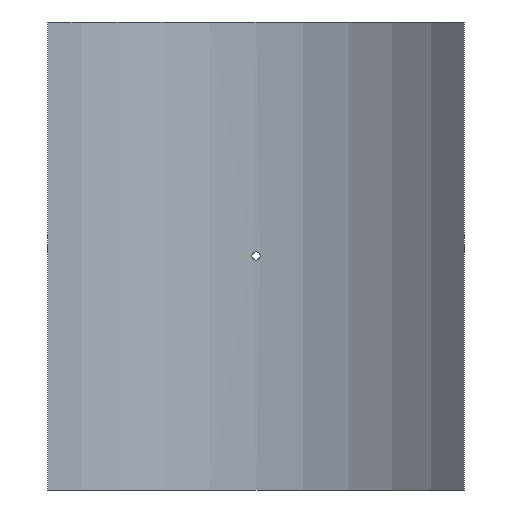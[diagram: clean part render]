
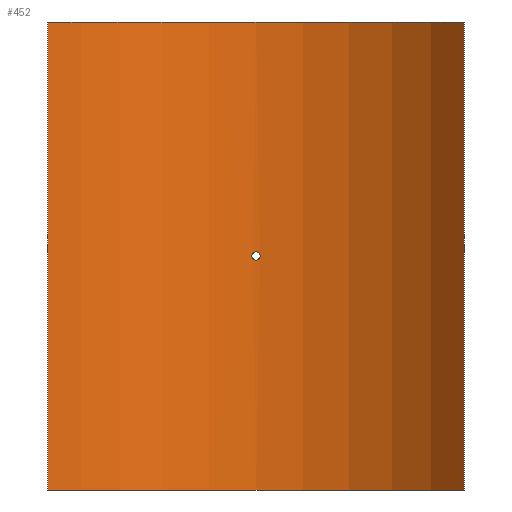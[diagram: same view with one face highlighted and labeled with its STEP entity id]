
A CAD part, front view. The second image highlights one B-rep face of the part: STEP entity #452.
In plain terms, the highlighted cylindrical face has radius 315 mm (diameter 630 mm), a partial arc.
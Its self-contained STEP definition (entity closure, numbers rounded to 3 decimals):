
#19=B_SPLINE_CURVE_WITH_KNOTS('',3,(#788,#789,#790,#791,#792,#793,#794,
#795,#796,#797,#798,#799,#800,#801,#802,#803,#804,#805,#806,#807,#808,#809,
#810,#811,#812,#813,#814,#815,#816,#817,#818,#819,#820,#821),
 .UNSPECIFIED.,.T.,.F.,(4,2,2,2,2,2,2,2,2,2,2,2,2,2,2,2,4),(0.,0.181,
0.362,0.542,0.723,0.904,
1.085,1.266,1.447,1.627,1.808,
1.989,2.17,2.351,2.531,2.712,
2.893),.UNSPECIFIED.);
#43=LINE('',#1073,#62);
#44=LINE('',#1076,#63);
#62=VECTOR('',#661,10.);
#63=VECTOR('',#664,10.);
#76=CYLINDRICAL_SURFACE('',#530,315.);
#88=FACE_BOUND('',#167,.T.);
#127=FACE_OUTER_BOUND('',#166,.T.);
#166=EDGE_LOOP('',(#405,#406,#407,#408));
#167=EDGE_LOOP('',(#409));
#201=CIRCLE('',#529,315.);
#202=CIRCLE('',#531,315.);
#219=VERTEX_POINT('',#786);
#242=VERTEX_POINT('',#1066);
#243=VERTEX_POINT('',#1068);
#244=VERTEX_POINT('',#1072);
#245=VERTEX_POINT('',#1074);
#267=EDGE_CURVE('',#219,#219,#19,.T.);
#299=EDGE_CURVE('',#242,#243,#201,.T.);
#301=EDGE_CURVE('',#244,#242,#43,.T.);
#302=EDGE_CURVE('',#245,#244,#202,.T.);
#303=EDGE_CURVE('',#245,#243,#44,.T.);
#405=ORIENTED_EDGE('',*,*,#301,.F.);
#406=ORIENTED_EDGE('',*,*,#302,.F.);
#407=ORIENTED_EDGE('',*,*,#303,.T.);
#408=ORIENTED_EDGE('',*,*,#299,.F.);
#409=ORIENTED_EDGE('',*,*,#267,.T.);
#452=ADVANCED_FACE('',(#127,#88),#76,.F.);
#529=AXIS2_PLACEMENT_3D('',#1069,#656,#657);
#530=AXIS2_PLACEMENT_3D('',#1071,#659,#660);
#531=AXIS2_PLACEMENT_3D('',#1075,#662,#663);
#656=DIRECTION('center_axis',(0.,0.,1.));
#657=DIRECTION('ref_axis',(0.763,0.646,0.));
#659=DIRECTION('center_axis',(0.,0.,1.));
#660=DIRECTION('ref_axis',(0.763,0.646,0.));
#661=DIRECTION('',(0.,0.,-1.));
#662=DIRECTION('center_axis',(0.,0.,-1.));
#663=DIRECTION('ref_axis',(0.763,0.646,0.));
#664=DIRECTION('',(0.,0.,-1.));
#786=CARTESIAN_POINT('',(4.8,314.963,0.));
#788=CARTESIAN_POINT('Ctrl Pts',(4.8,314.963,0.));
#789=CARTESIAN_POINT('Ctrl Pts',(4.8,314.963,-0.603));
#790=CARTESIAN_POINT('Ctrl Pts',(4.68,314.965,-1.246));
#791=CARTESIAN_POINT('Ctrl Pts',(4.19,314.972,-2.428));
#792=CARTESIAN_POINT('Ctrl Pts',(3.82,314.977,-2.968));
#793=CARTESIAN_POINT('Ctrl Pts',(2.968,314.986,-3.82));
#794=CARTESIAN_POINT('Ctrl Pts',(2.428,314.991,-4.19));
#795=CARTESIAN_POINT('Ctrl Pts',(1.246,314.998,-4.68));
#796=CARTESIAN_POINT('Ctrl Pts',(0.603,315.,-4.8));
#797=CARTESIAN_POINT('Ctrl Pts',(-0.603,315.,-4.8));
#798=CARTESIAN_POINT('Ctrl Pts',(-1.246,314.998,-4.68));
#799=CARTESIAN_POINT('Ctrl Pts',(-2.428,314.991,-4.19));
#800=CARTESIAN_POINT('Ctrl Pts',(-2.968,314.986,-3.82));
#801=CARTESIAN_POINT('Ctrl Pts',(-3.82,314.977,-2.968));
#802=CARTESIAN_POINT('Ctrl Pts',(-4.19,314.972,-2.428));
#803=CARTESIAN_POINT('Ctrl Pts',(-4.68,314.965,-1.246));
#804=CARTESIAN_POINT('Ctrl Pts',(-4.8,314.963,-0.603));
#805=CARTESIAN_POINT('Ctrl Pts',(-4.8,314.963,0.603));
#806=CARTESIAN_POINT('Ctrl Pts',(-4.68,314.965,1.246));
#807=CARTESIAN_POINT('Ctrl Pts',(-4.19,314.972,2.428));
#808=CARTESIAN_POINT('Ctrl Pts',(-3.82,314.977,2.968));
#809=CARTESIAN_POINT('Ctrl Pts',(-2.968,314.986,3.82));
#810=CARTESIAN_POINT('Ctrl Pts',(-2.428,314.991,4.19));
#811=CARTESIAN_POINT('Ctrl Pts',(-1.246,314.998,4.68));
#812=CARTESIAN_POINT('Ctrl Pts',(-0.603,315.,4.8));
#813=CARTESIAN_POINT('Ctrl Pts',(0.603,315.,4.8));
#814=CARTESIAN_POINT('Ctrl Pts',(1.246,314.998,4.68));
#815=CARTESIAN_POINT('Ctrl Pts',(2.428,314.991,4.19));
#816=CARTESIAN_POINT('Ctrl Pts',(2.968,314.986,3.82));
#817=CARTESIAN_POINT('Ctrl Pts',(3.82,314.977,2.968));
#818=CARTESIAN_POINT('Ctrl Pts',(4.19,314.972,2.428));
#819=CARTESIAN_POINT('Ctrl Pts',(4.68,314.965,1.246));
#820=CARTESIAN_POINT('Ctrl Pts',(4.8,314.963,0.603));
#821=CARTESIAN_POINT('Ctrl Pts',(4.8,314.963,0.));
#1066=CARTESIAN_POINT('',(240.5,203.432,-270.));
#1068=CARTESIAN_POINT('',(-240.5,203.432,-270.));
#1069=CARTESIAN_POINT('Origin',(0.,0.,
-270.));
#1071=CARTESIAN_POINT('Origin',(0.,0.,
0.));
#1072=CARTESIAN_POINT('',(240.5,203.432,270.));
#1073=CARTESIAN_POINT('',(240.5,203.432,0.));
#1074=CARTESIAN_POINT('',(-240.5,203.432,270.));
#1075=CARTESIAN_POINT('Origin',(0.,0.,
270.));
#1076=CARTESIAN_POINT('',(-240.5,203.432,0.));
